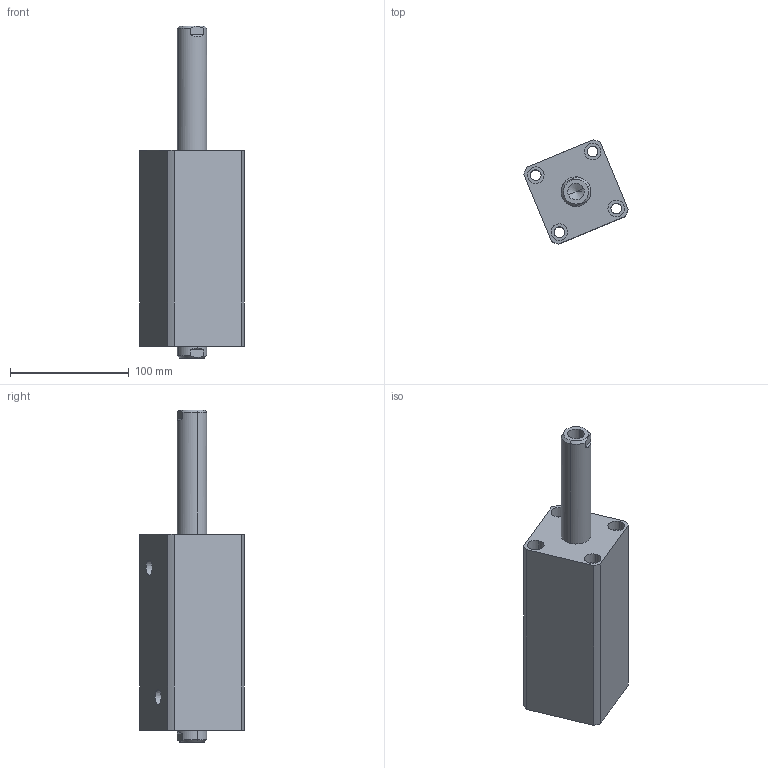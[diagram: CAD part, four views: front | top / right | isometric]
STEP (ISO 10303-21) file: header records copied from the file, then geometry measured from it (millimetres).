
FILE_DESCRIPTION (( 'STEP AP214' ), '1' );
FILE_NAME ('chtb-sw40x95n_asm.STEP', '2018-06-09T00:34:17', ( 'Windows' ), ( 'Microsoft' ), 'SwSTEP 2.0', 'SolidWorks 2015', '' );
FILE_SCHEMA (( 'AUTOMOTIVE_DESIGN' ));
Length unit declared in the file: millimetre
Products named in the file (4): CHTB-SW40X95NHSG; CHTB-SW40X95NBT; CHTB-SD40QG; chtb-sw40x95n_asm
Assembly tree (3 placements, depth 2):
  chtb-sw40x95n_asm
    CHTB-SD40QG
    CHTB-SW40X95NBT
    CHTB-SW40X95NHSG
Bounding box: 88.11 x 88.11 x 280 mm (x, y, z)
Volume: 724890 mm3; surface area: 131275.7 mm2
Topology: 3 solids, 3 shells, 167 faces, 429 edges, 282 vertices
Faces by surface type: cylinder 84, plane 40, cone 17, bspline 14, torus 12
Entity records: 10325 total; most frequent: CARTESIAN_POINT 6131, ORIENTED_EDGE 838, DIRECTION 822, EDGE_CURVE 419, AXIS2_PLACEMENT_3D 348, VERTEX_POINT 282, EDGE_LOOP 207, CIRCLE 189
